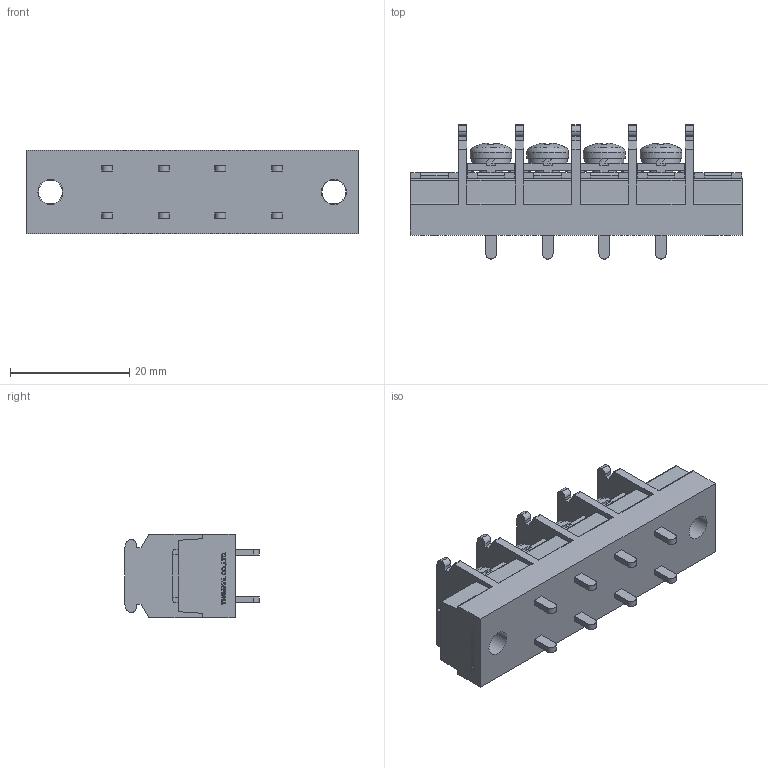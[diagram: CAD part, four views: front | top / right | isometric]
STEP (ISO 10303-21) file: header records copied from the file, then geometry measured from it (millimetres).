
FILE_DESCRIPTION(/* description */ ('Alibre Inc.'),/* implementation_level */ '2;1');
FILE_NAME(/* name */ 'export-77E9899B-C95F-46AD-A7A0-DD742D3B6DB5',/* time_stamp */ '2021-02-13T17:07:48+09:00',/* author */ (''),/* organization */ (''),/* preprocessor_version */ 'ST-DEVELOPER v17',/* originating_system */ 'Alibre',/* authorisation */ '');
FILE_SCHEMA (('CONFIG_CONTROL_DESIGN'));
Length unit declared in the file: millimetre
Bounding box: 55.7 x 22.5 x 14 mm (x, y, z)
Volume: 8699.6 mm3; surface area: 5961.2 mm2
Topology: 1 solids, 21 shells, 938 faces, 2574 edges, 1698 vertices
Faces by surface type: plane 694, cylinder 108, bspline 104, cone 20, torus 8, sphere 4
Full cylindrical faces by diameter (mm): 4 x10, 4.2 x2, 7 x4
Entity records: 28399 total; most frequent: CARTESIAN_POINT 6112, ORIENTED_EDGE 5072, DIRECTION 3500, EDGE_CURVE 2536, VECTOR 1882, LINE 1882, VERTEX_POINT 1688, AXIS2_PLACEMENT_3D 1134
